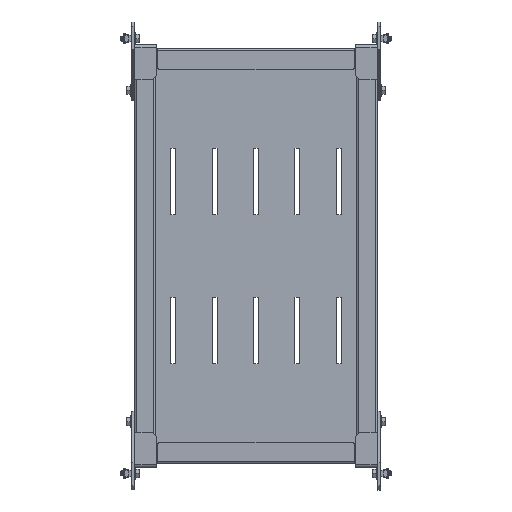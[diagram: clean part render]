
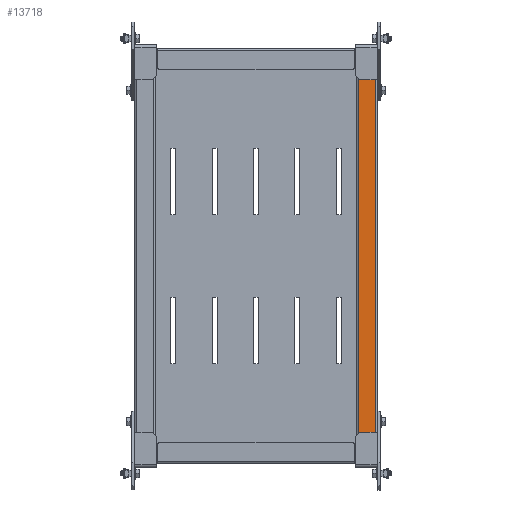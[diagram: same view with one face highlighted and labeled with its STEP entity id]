
A CAD part, front view. The second image highlights one B-rep face of the part: STEP entity #13718.
In plain terms, the highlighted planar face has unit normal (0, -1, 0).
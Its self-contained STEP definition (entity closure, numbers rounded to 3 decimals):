
#196 = VECTOR ( 'NONE', #32847, 1000. ) ;
#2069 = CARTESIAN_POINT ( 'NONE',  ( -248.4, -45., 0. ) ) ;
#2474 = CARTESIAN_POINT ( 'NONE',  ( -248.4, -45., -143.9 ) ) ;
#2719 = DIRECTION ( 'NONE',  ( 0., 1., 0. ) ) ;
#2786 = VECTOR ( 'NONE', #41588, 1000. ) ;
#3255 = EDGE_CURVE ( 'NONE', #9420, #57407, #46109, .T. ) ;
#3279 = AXIS2_PLACEMENT_3D ( 'NONE', #39400, #2719, #57752 ) ;
#6255 = EDGE_CURVE ( 'NONE', #16942, #9420, #42355, .T. ) ;
#6959 = VERTEX_POINT ( 'NONE', #2474 ) ;
#8138 = FACE_OUTER_BOUND ( 'NONE', #8539, .T. ) ;
#8539 = EDGE_LOOP ( 'NONE', ( #15047, #18100, #55996, #25333 ) ) ;
#9420 = VERTEX_POINT ( 'NONE', #58413 ) ;
#10801 = CARTESIAN_POINT ( 'NONE',  ( 248.4, -45., 0. ) ) ;
#13718 = ADVANCED_FACE ( 'NONE', ( #8138 ), #48746, .F. ) ;
#15047 = ORIENTED_EDGE ( 'NONE', *, *, #3255, .T. ) ;
#16942 = VERTEX_POINT ( 'NONE', #54959 ) ;
#18100 = ORIENTED_EDGE ( 'NONE', *, *, #35038, .T. ) ;
#22933 = CARTESIAN_POINT ( 'NONE',  ( 248.4, -45., -124.1 ) ) ;
#24627 = DIRECTION ( 'NONE',  ( 0., 0., -1. ) ) ;
#25333 = ORIENTED_EDGE ( 'NONE', *, *, #6255, .T. ) ;
#28044 = LINE ( 'NONE', #46399, #2786 ) ;
#29099 = DIRECTION ( 'NONE',  ( 0., 0., 1. ) ) ;
#30310 = VECTOR ( 'NONE', #29099, 1000. ) ;
#31638 = CARTESIAN_POINT ( 'NONE',  ( -248.4, -45., -124.1 ) ) ;
#32847 = DIRECTION ( 'NONE',  ( -1., 0., 0. ) ) ;
#35038 = EDGE_CURVE ( 'NONE', #57407, #6959, #52635, .T. ) ;
#35122 = VECTOR ( 'NONE', #24627, 1000. ) ;
#37515 = EDGE_CURVE ( 'NONE', #16942, #6959, #28044, .T. ) ;
#39400 = CARTESIAN_POINT ( 'NONE',  ( 0., -45., 0. ) ) ;
#41588 = DIRECTION ( 'NONE',  ( -1., 0., 0. ) ) ;
#42355 = LINE ( 'NONE', #10801, #30310 ) ;
#46109 = LINE ( 'NONE', #22933, #196 ) ;
#46399 = CARTESIAN_POINT ( 'NONE',  ( -248.4, -45., -143.9 ) ) ;
#48746 = PLANE ( 'NONE',  #3279 ) ;
#52635 = LINE ( 'NONE', #2069, #35122 ) ;
#54959 = CARTESIAN_POINT ( 'NONE',  ( 248.4, -45., -143.9 ) ) ;
#55996 = ORIENTED_EDGE ( 'NONE', *, *, #37515, .F. ) ;
#57407 = VERTEX_POINT ( 'NONE', #31638 ) ;
#57752 = DIRECTION ( 'NONE',  ( 0., 0., 1. ) ) ;
#58413 = CARTESIAN_POINT ( 'NONE',  ( 248.4, -45., -124.1 ) ) ;
